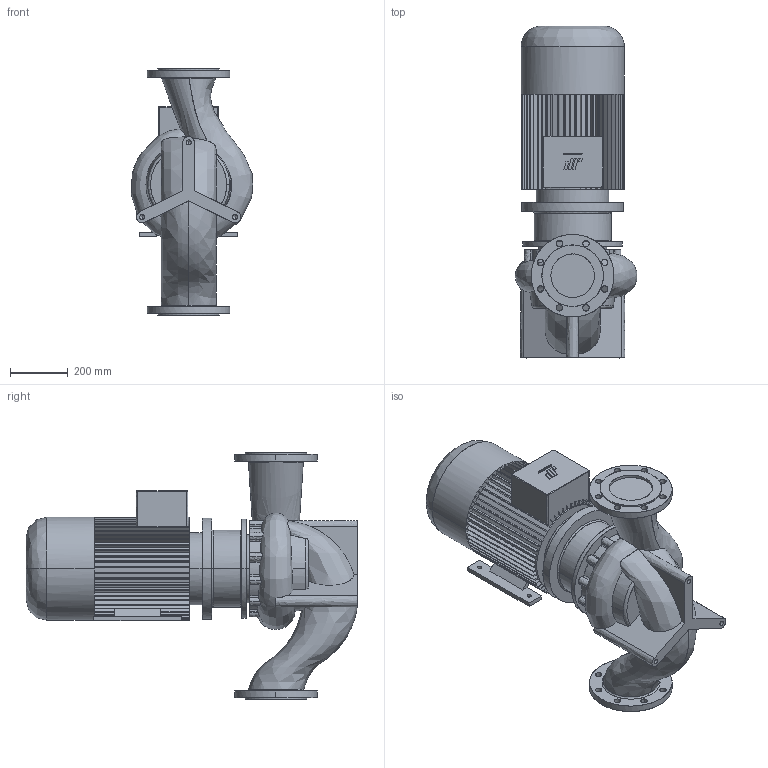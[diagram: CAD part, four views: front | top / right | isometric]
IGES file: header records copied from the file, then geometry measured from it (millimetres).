
Start section: CombiLine
Global section: file name: CLB_150-250_IEC180M_ND10.igs; native system:  By UGS Corp.; preprocessor: XPlus GENERIC/IGES 3.0; author: Stageplaats; organization: Johnson Pump Water B.V.; date: 20070718.084524; units: millimetre
Bounding box: 419.91 x 1144.5 x 850 mm (x, y, z)
Surface area: 2988643.7 mm2 (no closed solid volume)
Topology: 0 solids, 0 shells, 619 faces, 3756 edges, 3750 vertices
Faces by surface type: bspline 619
